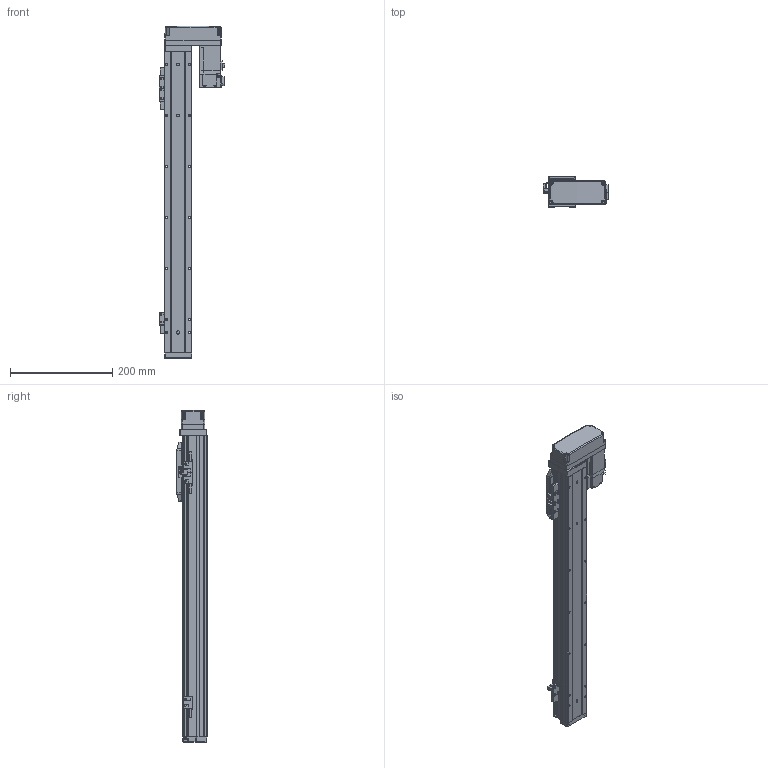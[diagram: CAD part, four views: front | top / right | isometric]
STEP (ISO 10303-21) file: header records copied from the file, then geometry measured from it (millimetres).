
FILE_DESCRIPTION (( 'STEP AP214' ), '1' );
FILE_NAME ('N_GRH5-450-BL-M10.step', '2025-03-14T09:45:35', ( '' ), ( '' ), 'SwSTEP 2.0', 'SolidWorks 2016', '' );
FILE_SCHEMA (( 'AUTOMOTIVE_DESIGN' ));
Length unit declared in the file: millimetre
Products named in the file (5): N_GRH5-GY-004^N_GRH5-450-BL-M10; N_GRH5-BL-008^N_GRH5-450-BL-M10; N_GRH5-GY-011^N_GRH5-450-BL-M10; N_GRH5-450-BL-M10; HF-KP13_100W_Motor^N_GRH5-450-BL-M10
Assembly tree (4 placements, depth 2):
  N_GRH5-450-BL-M10
    N_GRH5-GY-011^N_GRH5-450-BL-M10
    N_GRH5-GY-004^N_GRH5-450-BL-M10
    HF-KP13_100W_Motor^N_GRH5-450-BL-M10
    N_GRH5-BL-008^N_GRH5-450-BL-M10
Bounding box: 128.85 x 60 x 650.5 mm (x, y, z)
Volume: 1312649.3 mm3; surface area: 326409.2 mm2
Topology: 4 solids, 5 shells, 924 faces, 2376 edges, 1513 vertices
Faces by surface type: plane 555, cylinder 314, cone 30, bspline 15, sphere 10
Entity records: 35269 total; most frequent: CARTESIAN_POINT 5651, DIRECTION 4773, ORIENTED_EDGE 4704, EDGE_CURVE 2352, LINE 1631, VECTOR 1631, AXIS2_PLACEMENT_3D 1571, VERTEX_POINT 1511
